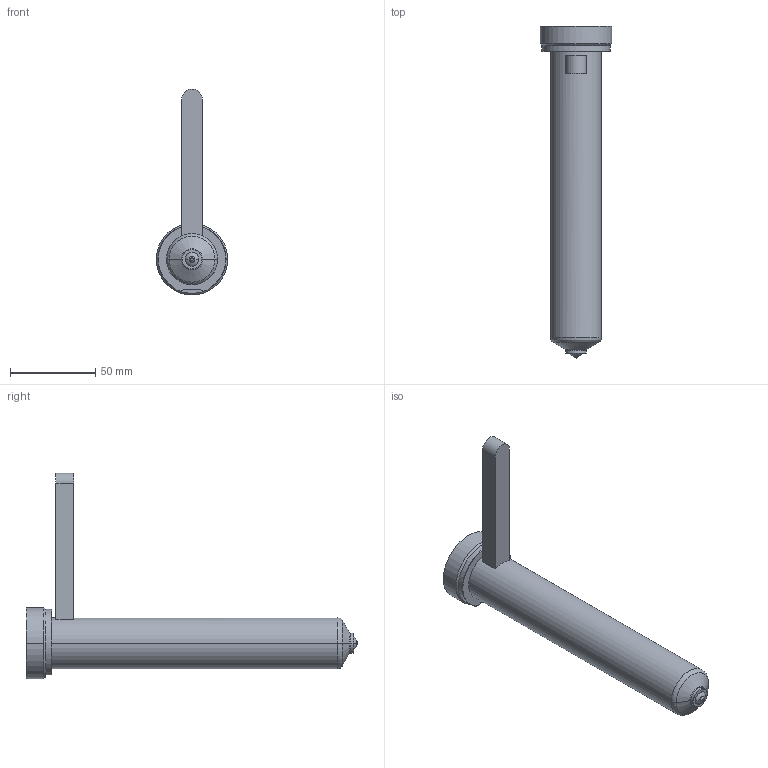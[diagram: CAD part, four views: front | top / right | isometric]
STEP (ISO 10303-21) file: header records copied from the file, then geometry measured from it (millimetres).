
FILE_DESCRIPTION((''),'2;1');
FILE_NAME('EO08_PG-BL_STD_180_COT','2024-02-19T11:05:55',('sundharh'),(''),'CREO PARAMETRIC BY PTC INC, 2023154','CREO PARAMETRIC BY PTC INC, 2023154','');
FILE_SCHEMA(('CONFIG_CONTROL_DESIGN'));
Length unit declared in the file: millimetre
Products named in the file (1): EO08_PG-BL_STD_180_COT
Bounding box: 42 x 195 x 121 mm (x, y, z)
Volume: 153108.6 mm3; surface area: 24581.2 mm2
Topology: 1 solids, 1 shells, 40 faces, 85 edges, 50 vertices
Faces by surface type: cylinder 13, plane 10, torus 9, cone 6, sphere 2
Entity records: 1185 total; most frequent: CARTESIAN_POINT 255, DIRECTION 209, ORIENTED_EDGE 170, AXIS2_PLACEMENT_3D 90, EDGE_CURVE 85, VERTEX_POINT 50, CIRCLE 50, EDGE_LOOP 43
